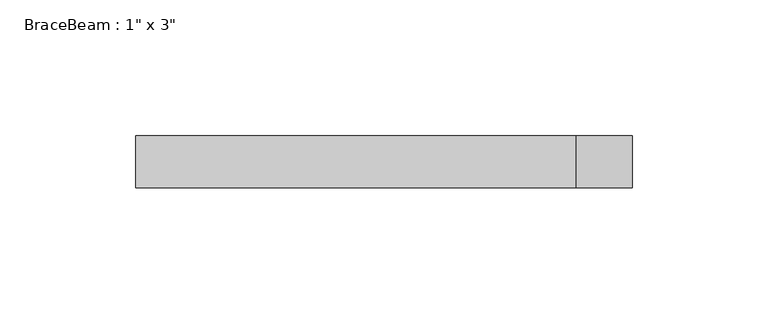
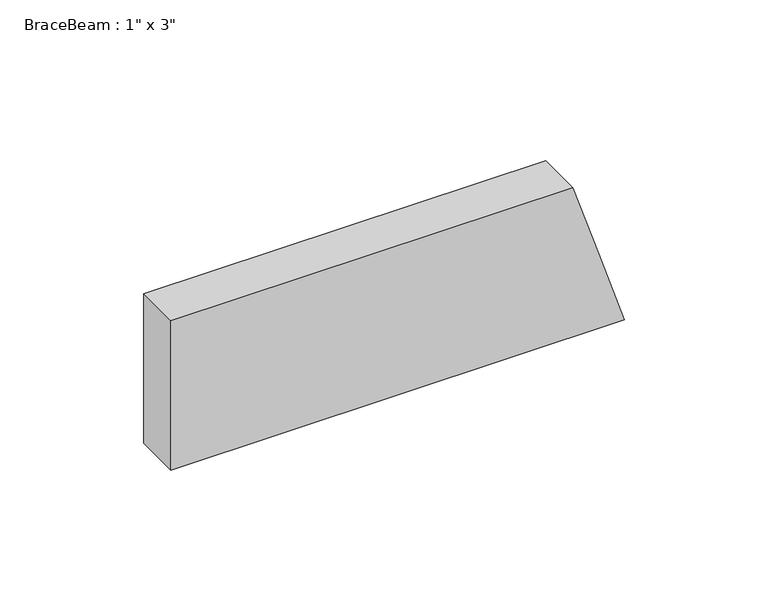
"""IFC4 building model written with IfcOpenShell, lengths in millimetres: beam geometry."""

from ifc_helpers import new_model, si_unit, origin, place, context, project, spatial, faceted_brep, source, transform, mapped, element, save


def beam_9a653d77(model_context):
    return source(origin(), model_context, "Body", "Brep", [
        faceted_brep([(-86.8985703, 9.525, -31.75), (95.6130478, 9.525, -31.75), (95.6130478, -9.525, -31.75), (-86.8985703, -9.525, -31.75), (85.2502006, -9.525, 0.0), (74.8873533, -9.525, 31.75), (-86.8985703, -9.525, 31.75), (74.8873533, 9.525, 31.75), (-86.8985703, 9.525, 31.75), (85.2502006, 9.525, 0.0)], [[[0, 1, 2, 3]], [[3, 2, 4, 5, 6]], [[6, 5, 7, 8]], [[8, 7, 9, 1, 0]], [[8, 0, 3, 6]], [[5, 4, 2, 1, 9, 7]]]),
    ])


if __name__ == "__main__":
    model = new_model("IFC4")
    model_context = context("Model", 3, world=origin())
    ifc_project = project(units=[si_unit("LENGTHUNIT", "METRE", prefix="MILLI")], contexts=[model_context])
    site = spatial("IfcSite", under=ifc_project)
    building = spatial("IfcBuilding", under=site)
    placement = place(None, origin())
    beam_shape = beam_9a653d77(model_context)
    element("IfcBeam", 1, ObjectType="BraceBeam : 1\" x 3\"", at=placement, inside=building, context=model_context, shape_type="MappedRepresentation", body=[
        mapped(beam_shape, transform((0.0, 0.0, 0.0), x_axis=(1.0, 0.0, 0.0), y_axis=(0.0, 1.0, 0.0), z_axis=(0.0, 0.0, 1.0))),
    ])
    save(model, "model.ifc")
